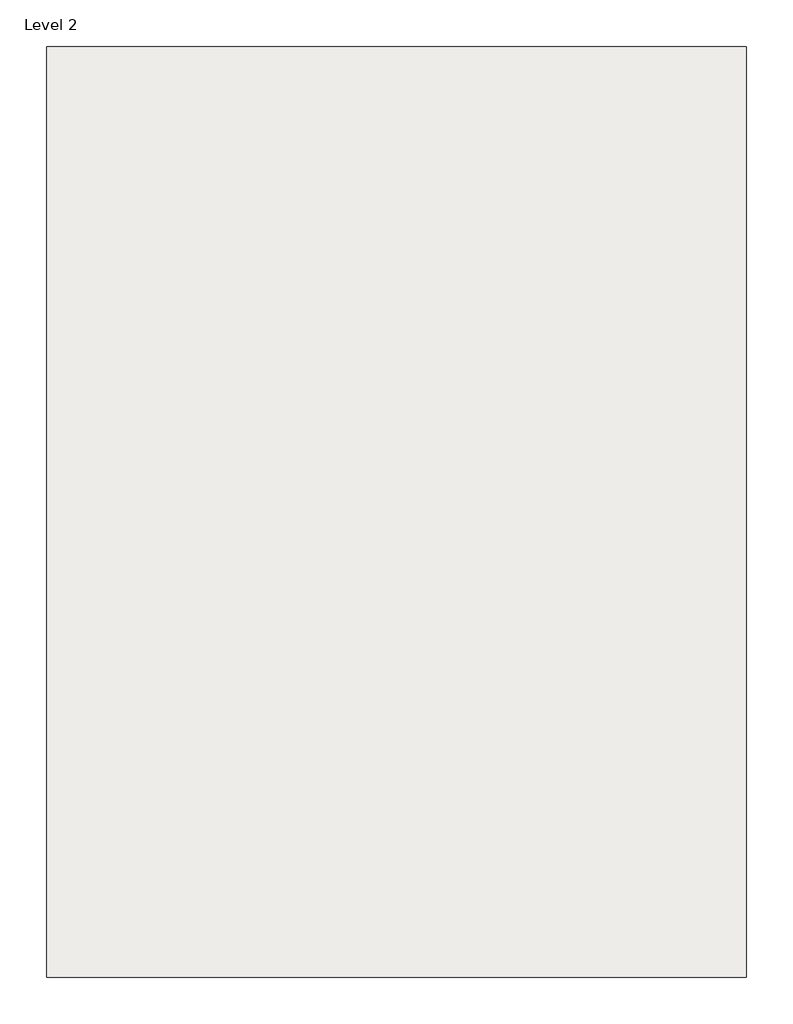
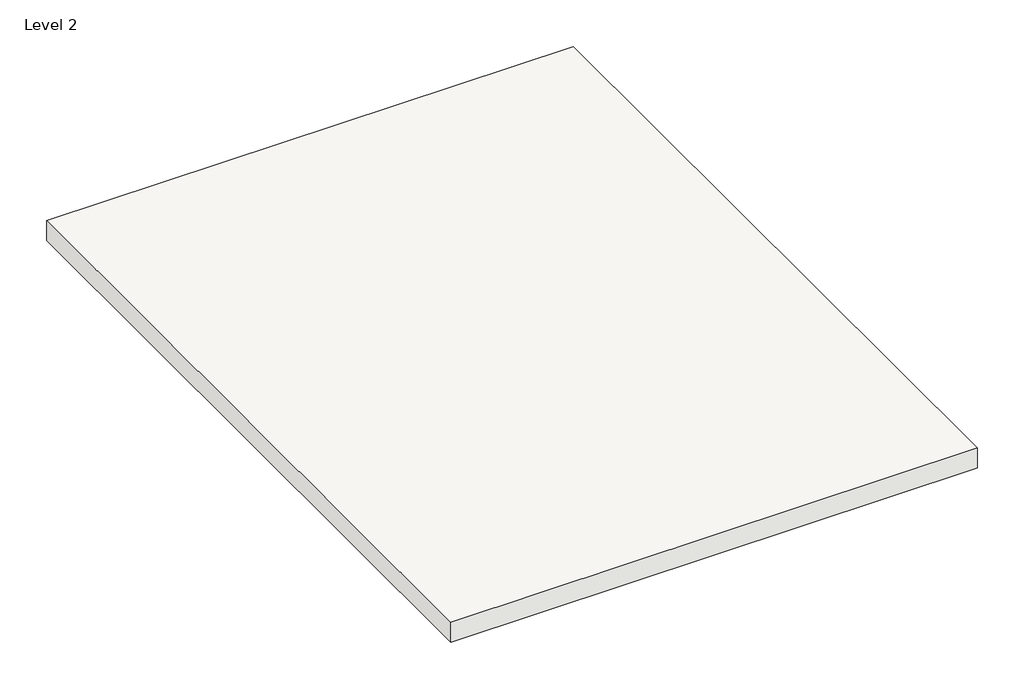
# One storey: 1 slab.
"""IFC4 building model written with IfcOpenShell, lengths in millimetres."""

from ifc_helpers import new_model, si_unit, frame, origin, place, context, project, spatial, polyline, outline, extrude, element, save

model = new_model("IFC4")

# Units and contexts
model_context = context("Model", 3, world=origin())
ifc_project = project(units=[si_unit("LENGTHUNIT", "METRE", prefix="MILLI")], contexts=[model_context])

# Site, building, storey
site = spatial("IfcSite", under=ifc_project)
building = spatial("IfcBuilding", under=site)
storey = spatial("IfcBuildingStorey", under=building, Name="Level 2", Elevation=3200.0)

# Slab
placement = place(None, origin())
element("IfcSlab", 1, ObjectType="Generic 150mm", at=placement, inside=storey, context=model_context, shape_type="SweptSolid", body=[
    extrude(outline(polyline([(2667.42874, 6244.5768874), (2667.42874, -3735.4231126), (-4832.57126, -3735.4231126), (-4832.57126, 6244.5768874), (2667.42874, 6244.5768874)])), frame((0.0, 0.0, 2900.0), z_axis=(0.0, 0.0, 1.0), x_axis=(1.0, 0.0, 0.0)), (0.0, 0.0, 1.0), 300.0),
])

save(model, "model.ifc")
